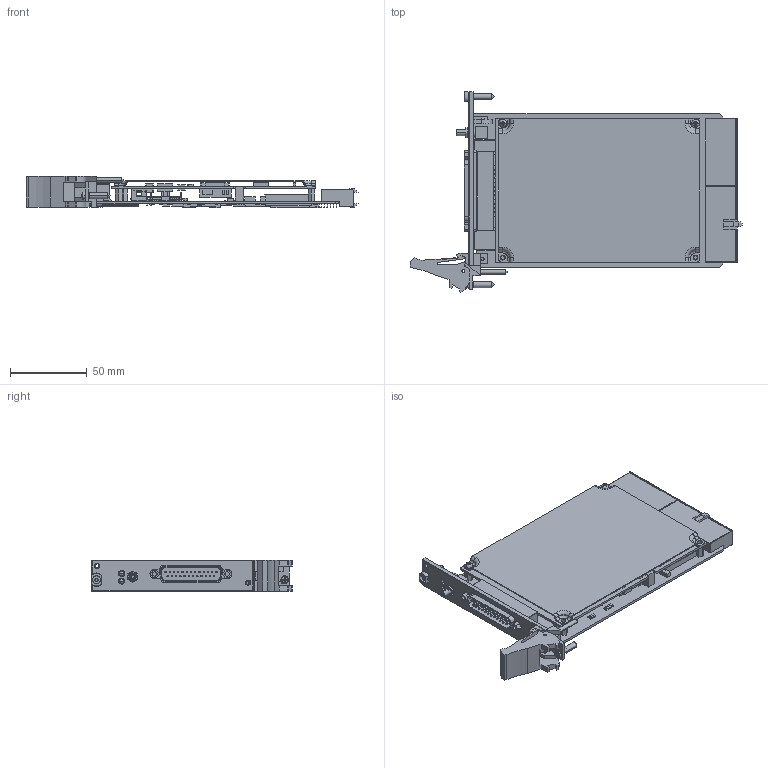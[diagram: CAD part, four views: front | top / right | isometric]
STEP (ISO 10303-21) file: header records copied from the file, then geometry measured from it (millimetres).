
FILE_DESCRIPTION((''),'2;1');
FILE_NAME('CU_PXI-4224','2007-11-05T',('tvenable'),(''),'PRO/ENGINEER BY PARAMETRIC TECHNOLOGY CORPORATION, 2006080','PRO/ENGINEER BY PARAMETRIC TECHNOLOGY CORPORATION, 2006080','');
FILE_SCHEMA(('CONFIG_CONTROL_DESIGN'));
Products named in the file (1): CU_PXI-4224
Bounding box: 216.08 x 130.5 x 20.19 mm (x, y, z)
Volume: 109682.6 mm3; surface area: 118994.2 mm2
Topology: 1 solids, 3 shells, 5253 faces, 14133 edges, 9169 vertices
Faces by surface type: plane 4450, cylinder 621, torus 60, sphere 46, cone 46, bspline 30
Entity records: 166470 total; most frequent: CARTESIAN_POINT 33246, ORIENTED_EDGE 28142, DIRECTION 25972, EDGE_CURVE 14071, VECTOR 12340, LINE 12340, VERTEX_POINT 9264, AXIS2_PLACEMENT_3D 6816
